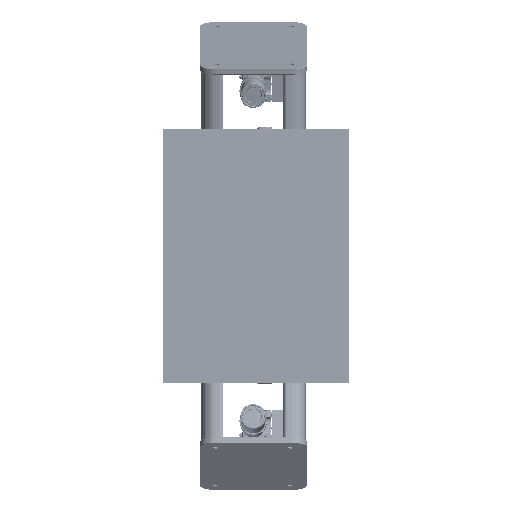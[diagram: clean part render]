
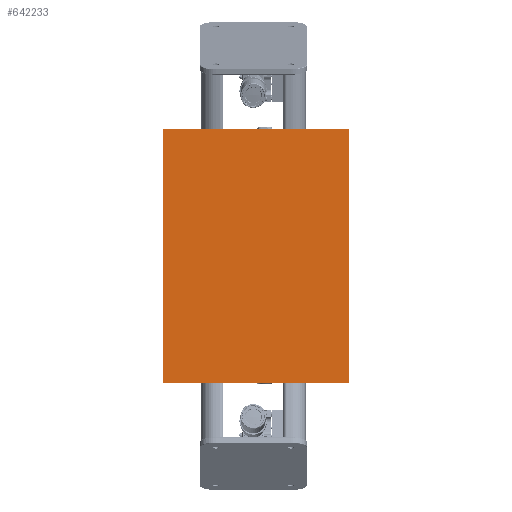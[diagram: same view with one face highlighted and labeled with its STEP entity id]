
A CAD part, front view. The second image highlights one B-rep face of the part: STEP entity #642233.
In plain terms, the highlighted planar face has unit normal (0, -1, 0) as drawn and (0, 0, -1) by its records, which use the part's own axes.
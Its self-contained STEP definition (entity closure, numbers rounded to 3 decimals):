
#642118=DIRECTION('',(0.,1.,0.));
#642119=VECTOR('',#642118,250.);
#642120=CARTESIAN_POINT('',(-170.,-125.,-625.));
#642121=LINE('',#642120,#642119);
#642122=DIRECTION('',(-1.,0.,0.));
#642123=VECTOR('',#642122,340.);
#642124=CARTESIAN_POINT('',(170.,-125.,-625.));
#642125=LINE('',#642124,#642123);
#642126=DIRECTION('',(0.,1.,0.));
#642127=VECTOR('',#642126,250.);
#642128=CARTESIAN_POINT('',(170.,-125.,-625.));
#642129=LINE('',#642128,#642127);
#642130=DIRECTION('',(-1.,0.,0.));
#642131=VECTOR('',#642130,340.);
#642132=CARTESIAN_POINT('',(170.,125.,-625.));
#642133=LINE('',#642132,#642131);
#642142=CARTESIAN_POINT('',(170.,-125.,-625.));
#642143=CARTESIAN_POINT('',(-170.,-125.,-625.));
#642144=VERTEX_POINT('',#642142);
#642145=VERTEX_POINT('',#642143);
#642146=CARTESIAN_POINT('',(170.,125.,-625.));
#642147=CARTESIAN_POINT('',(-170.,125.,-625.));
#642148=VERTEX_POINT('',#642146);
#642149=VERTEX_POINT('',#642147);
#642222=CARTESIAN_POINT('',(170.,-130.,-625.));
#642223=DIRECTION('',(0.,0.,-1.));
#642224=DIRECTION('',(-1.,0.,0.));
#642225=AXIS2_PLACEMENT_3D('',#642222,#642223,#642224);
#642226=PLANE('',#642225);
#642227=ORIENTED_EDGE('',*,*,#642173,.F.);
#642228=ORIENTED_EDGE('',*,*,#642188,.T.);
#642229=ORIENTED_EDGE('',*,*,#642204,.T.);
#642230=ORIENTED_EDGE('',*,*,#642217,.F.);
#642231=EDGE_LOOP('',(#642227,#642228,#642229,#642230));
#642232=FACE_OUTER_BOUND('',#642231,.F.);
#642233=ADVANCED_FACE('',(#642232),#642226,.T.);
#642173=EDGE_CURVE('',#642144,#642145,#642125,.T.);
#642188=EDGE_CURVE('',#642144,#642148,#642129,.T.);
#642204=EDGE_CURVE('',#642148,#642149,#642133,.T.);
#642217=EDGE_CURVE('',#642145,#642149,#642121,.T.);
